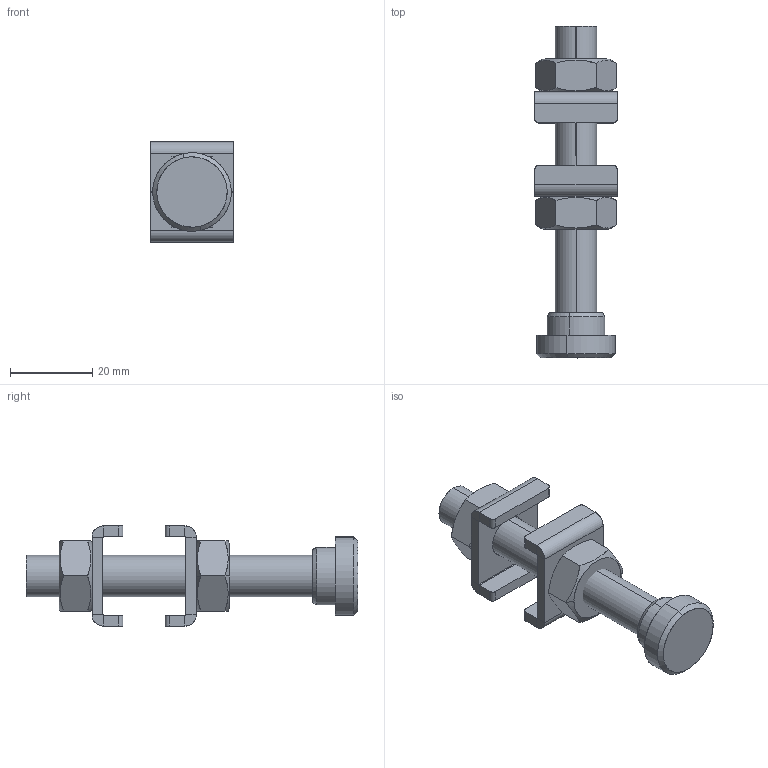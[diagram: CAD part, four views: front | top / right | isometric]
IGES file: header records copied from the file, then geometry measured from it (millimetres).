
Start section: SolidWorks IGES file using analytic representation for surfaces
Global section: file name: C:\Projetos\Ponteiras\ARP\ARP-M10\ARP-M10.IGS; native system: SolidWorks 2011; preprocessor: SolidWorks 2011; author: Usuario; date: 110520.143211; units: millimetre
Bounding box: 20 x 80.5 x 24.3 mm (x, y, z)
Surface area: 8966.5 mm2 (no closed solid volume)
Topology: 0 solids, 0 shells, 118 faces, 1640 edges, 1638 vertices
Faces by surface type: revolution 60, bspline 58
